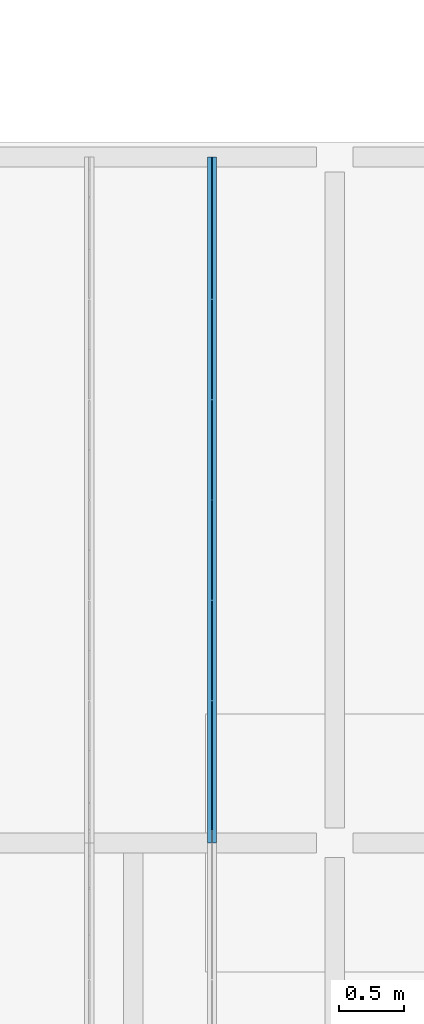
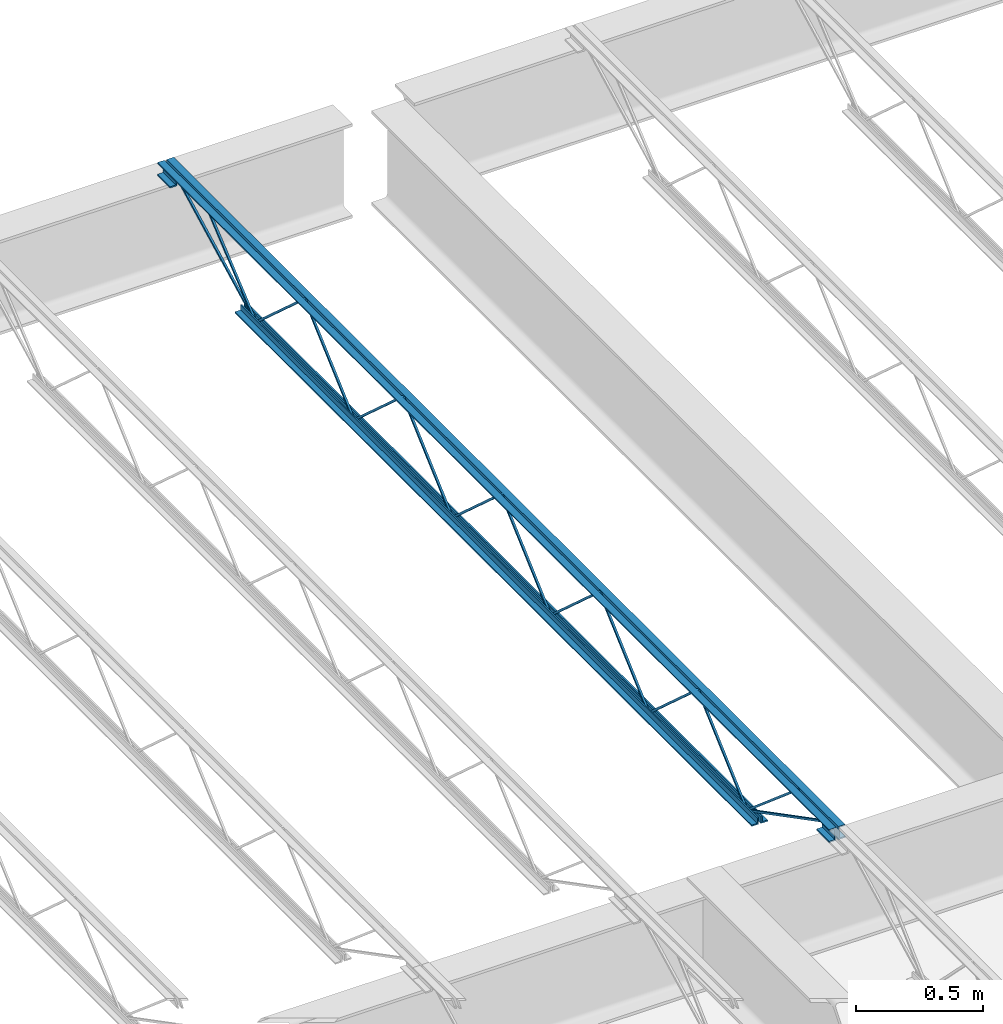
# One storey, part 71 of 75: 1 beam.
"""IFC2X3 building model written with IfcOpenShell, lengths in metres."""

from ifc_helpers import new_model, entity, si_unit, converted_unit, frame, origin, place, context, project, spatial, face_set, surface_model, element, save


model = new_model("IFC2X3")

# Units and contexts
model_context = context("Model", 3, precision=1e-09, world=origin())
plan_context = context("Plan", 3, precision=1e-09, world=origin())
ifc_project = project(units=[si_unit("LENGTHUNIT", "METRE"), si_unit("AREAUNIT", "SQUARE_METRE"), si_unit("VOLUMEUNIT", "CUBIC_METRE"), converted_unit("PLANEANGLEUNIT", "DEGREE", entity("IfcRatioMeasure", 0.01745329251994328), si_unit("PLANEANGLEUNIT", "RADIAN"), dimensions=[0, 0, 0, 0, 0, 0, 0]), si_unit("TIMEUNIT", "SECOND")], contexts=[model_context, plan_context])

# Site, building, storey
site_placement = place(None, origin())
site = spatial("IfcSite", under=ifc_project, at=site_placement, Name="Default", CompositionType="ELEMENT")
building_placement = place(site_placement, origin())
building = spatial("IfcBuilding", under=site, at=building_placement, CompositionType="ELEMENT")
storey_placement = place(building_placement, origin())
storey = spatial("IfcBuildingStorey", under=building, at=storey_placement, Name="First Floor", CompositionType="ELEMENT", Elevation=-3.531500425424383e-13)

# Beam
beam_placement = place(storey_placement, frame((-8.26674687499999, 44.78049999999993, 4.112000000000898), z_axis=(0.0, 0.0, 1.0), x_axis=(-1.0, 0.0, 0.0)))
element("IfcBeam", 1, at=beam_placement, inside=storey, Name="M_K-Series Bar Joist-Rod Web:14K1:14K1", ObjectType="M_K-Series Bar Joist-Rod Web:14K1", context=model_context, shape_type="SurfaceModel", body=[
    surface_model("IfcFaceBasedSurfaceModel", [(-0.03200000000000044, -2.266000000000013, 0.01110000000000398), (-0.04150000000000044, -2.266000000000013, 0.01110000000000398), (-0.04150000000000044, -2.266000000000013, 0.001600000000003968), (-0.03200000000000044, -2.266000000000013, 0.001600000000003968), (-0.04150000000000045, -2.264645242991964, 0.01110000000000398), (-0.03200000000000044, -2.264645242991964, 0.01110000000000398), (-0.04150000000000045, -2.26100475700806, 0.001600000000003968), (-0.04150000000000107, -1.878854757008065, 0.3449000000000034), (-0.04150000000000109, -1.876145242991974, 0.3449000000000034), (-0.04150000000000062, -1.493995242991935, 0.001600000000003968), (-0.04150000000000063, -1.489000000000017, 0.001600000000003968), (-0.04150000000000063, -1.489000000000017, 0.01110000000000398), (-0.04150000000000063, -1.490354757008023, 0.01110000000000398), (-0.0415, -1.872504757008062, 0.3544000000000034), (-0.04149999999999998, -1.882495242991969, 0.3544000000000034), (-0.03200000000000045, -2.26100475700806, 0.001600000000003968), (-0.03199999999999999, -1.878854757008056, 0.3449000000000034), (-0.03199999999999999, -1.876145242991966, 0.3449000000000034), (-0.03200000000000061, -1.493995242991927, 0.001600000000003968), (-0.03200000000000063, -1.489000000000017, 0.001600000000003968), (-0.03200000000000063, -1.489000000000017, 0.01110000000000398), (-0.03200000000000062, -1.490354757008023, 0.01110000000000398), (-0.03200000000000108, -1.872504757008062, 0.3544000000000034), (-0.03200000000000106, -1.882495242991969, 0.3544000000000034), (-0.03200000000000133, -3.04300000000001, 0.01110000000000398), (-0.04150000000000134, -3.04300000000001, 0.01110000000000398), (-0.04150000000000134, -3.04300000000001, 0.001600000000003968), (-0.03200000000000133, -3.04300000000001, 0.001600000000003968), (-0.04150000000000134, -3.041645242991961, 0.01110000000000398), (-0.03200000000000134, -3.041645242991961, 0.01110000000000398), (-0.04150000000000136, -3.038004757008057, 0.001600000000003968), (-0.04150000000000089, -2.655854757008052, 0.3449000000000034), (-0.0415000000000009, -2.653145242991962, 0.3449000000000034), (-0.04150000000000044, -2.270995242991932, 0.001600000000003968), (-0.04150000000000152, -2.266000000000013, 0.01110000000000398), (-0.04150000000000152, -2.26735475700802, 0.01110000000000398), (-0.0415000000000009, -2.649504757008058, 0.3544000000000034), (-0.04150000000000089, -2.659495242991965, 0.3544000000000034), (-0.03200000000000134, -3.038004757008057, 0.001600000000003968), (-0.03200000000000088, -2.655854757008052, 0.3449000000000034), (-0.03200000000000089, -2.653145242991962, 0.3449000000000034), (-0.03200000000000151, -2.270995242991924, 0.001600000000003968), (-0.03200000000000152, -2.266000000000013, 0.001600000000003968), (-0.03200000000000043, -2.26735475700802, 0.01110000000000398), (-0.0320000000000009, -2.649504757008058, 0.3544000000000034), (-0.03200000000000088, -2.659495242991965, 0.3544000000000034), (-0.03200000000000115, -3.820000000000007, 0.01110000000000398), (-0.04150000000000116, -3.820000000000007, 0.01110000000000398), (-0.04150000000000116, -3.820000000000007, 0.001600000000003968), (-0.03200000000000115, -3.820000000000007, 0.001600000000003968), (-0.04150000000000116, -3.818645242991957, 0.01110000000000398), (-0.03200000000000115, -3.818645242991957, 0.01110000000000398), (-0.04150000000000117, -3.815004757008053, 0.001600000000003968), (-0.0415000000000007, -3.432854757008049, 0.3449000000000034), (-0.04150000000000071, -3.430145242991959, 0.3449000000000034), (-0.04150000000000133, -3.04799524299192, 0.001600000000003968), (-0.04150000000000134, -3.043000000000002, 0.001600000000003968), (-0.04150000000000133, -3.044354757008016, 0.01110000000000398), (-0.04150000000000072, -3.426504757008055, 0.3544000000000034), (-0.0415000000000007, -3.436495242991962, 0.3544000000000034), (-0.03200000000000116, -3.815004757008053, 0.001600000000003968), (-0.0320000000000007, -3.432854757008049, 0.3449000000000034), (-0.0320000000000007, -3.430145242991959, 0.3449000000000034), (-0.03200000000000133, -3.04799524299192, 0.001600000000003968), (-0.03200000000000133, -3.043000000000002, 0.01110000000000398), (-0.03200000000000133, -3.044354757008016, 0.01110000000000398), (-0.03200000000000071, -3.426504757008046, 0.3544000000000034), (-0.0320000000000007, -3.436495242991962, 0.3544000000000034), (-0.03200000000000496, -1.489000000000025, 0.01109999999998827), (-0.04150000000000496, -1.489000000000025, 0.01109999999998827), (-0.04150000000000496, -1.489000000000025, 0.001599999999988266), (-0.03200000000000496, -1.489000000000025, 0.001599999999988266), (-0.04150000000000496, -1.487645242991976, 0.01109999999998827), (-0.03200000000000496, -1.487645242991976, 0.01109999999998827), (-0.04150000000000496, -1.484004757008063, 0.001599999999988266), (-0.04150000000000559, -1.101854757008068, 0.3448999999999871), (-0.04150000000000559, -1.099145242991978, 0.3448999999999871), (-0.04150000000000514, -0.7169952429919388, 0.001599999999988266), (-0.04150000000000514, -0.7120000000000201, 0.001599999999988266), (-0.04150000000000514, -0.7120000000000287, 0.01109999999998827), (-0.04150000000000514, -0.7133547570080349, 0.01109999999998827), (-0.04150000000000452, -1.095504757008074, 0.3543999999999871), (-0.0415000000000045, -1.10549524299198, 0.3543999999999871), (-0.03200000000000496, -1.484004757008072, 0.001599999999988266), (-0.0320000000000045, -1.101854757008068, 0.3448999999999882), (-0.0320000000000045, -1.099145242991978, 0.3448999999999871), (-0.03200000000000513, -0.7169952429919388, 0.001599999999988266), (-0.03200000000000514, -0.7120000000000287, 0.001599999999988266), (-0.03200000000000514, -0.7120000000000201, 0.01109999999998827), (-0.03200000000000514, -0.7133547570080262, 0.01109999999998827), (-0.03200000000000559, -1.095504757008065, 0.3543999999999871), (-0.03200000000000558, -1.105495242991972, 0.3543999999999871), (-0.03200000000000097, -4.597000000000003, 0.01110000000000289), (-0.04150000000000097, -4.597000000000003, 0.01110000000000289), (-0.04150000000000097, -4.597000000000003, 0.001600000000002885), (-0.03200000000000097, -4.597000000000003, 0.001600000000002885), (-0.04150000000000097, -4.595645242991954, 0.01110000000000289), (-0.03200000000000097, -4.595645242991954, 0.01110000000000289), (-0.04150000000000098, -4.592004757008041, 0.001600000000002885), (-0.04150000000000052, -4.209854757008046, 0.3449000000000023), (-0.04150000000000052, -4.207145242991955, 0.3449000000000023), (-0.04150000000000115, -3.824995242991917, 0.001600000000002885), (-0.04150000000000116, -3.819999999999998, 0.001600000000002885), (-0.04150000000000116, -3.820000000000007, 0.01110000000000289), (-0.04150000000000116, -3.821354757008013, 0.01110000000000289), (-0.04150000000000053, -4.203504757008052, 0.3544000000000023), (-0.04150000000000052, -4.213495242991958, 0.3544000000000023), (-0.03200000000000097, -4.592004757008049, 0.001600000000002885), (-0.03200000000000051, -4.209854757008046, 0.3449000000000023), (-0.03200000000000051, -4.207145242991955, 0.3449000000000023), (-0.03200000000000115, -3.824995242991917, 0.001600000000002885), (-0.03200000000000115, -3.820000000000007, 0.001600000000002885), (-0.03200000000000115, -3.819999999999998, 0.01110000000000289), (-0.03200000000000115, -3.821354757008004, 0.01110000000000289), (-0.03200000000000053, -4.203504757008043, 0.3544000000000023), (-0.03200000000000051, -4.213495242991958, 0.3544000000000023), (-0.04150000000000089, 0.0, 0.3559999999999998), (-0.07350000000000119, 0.0, 0.3559999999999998), (-0.07350000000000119, 0.0, 0.349499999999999), (-0.04800000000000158, 0.0, 0.349499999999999), (-0.04800000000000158, 0.0, 0.3239999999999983), (-0.04150000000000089, 0.0, 0.3239999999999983), (-0.03200000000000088, 0.0, 0.3559999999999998), (-0.03200000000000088, 0.0, 0.3239999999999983), (-0.02550000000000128, 0.0, 0.3239999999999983), (-0.02550000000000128, 0.0, 0.349499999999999), (0.0, 0.0, 0.349499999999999), (0.0, 0.0, 0.3559999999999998), (-0.0415000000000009, -5.309000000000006, 0.3559999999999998), (-0.0735000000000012, -5.309000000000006, 0.3559999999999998), (-0.0735000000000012, -5.309000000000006, 0.349499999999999), (-0.04800000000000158, -5.309000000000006, 0.349499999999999), (-0.04800000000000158, -5.309000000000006, 0.3239999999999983), (-0.0415000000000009, -5.309000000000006, 0.3239999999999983), (-0.03200000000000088, -5.309000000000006, 0.3559999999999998), (-0.03200000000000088, -5.309000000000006, 0.3239999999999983), (-0.02550000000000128, -5.309000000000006, 0.3239999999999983), (-0.02550000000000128, -5.309000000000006, 0.349499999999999), (0.0, -5.309000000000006, 0.349499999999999), (0.0, -5.309000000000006, 0.3559999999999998), (-0.03200000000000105, -5.20900000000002, 0.2924999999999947), (0.0, -5.20900000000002, 0.2924999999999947), (0.0, -5.20900000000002, 0.2989999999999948), (-0.02550000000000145, -5.20900000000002, 0.2989999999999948), (-0.02550000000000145, -5.20900000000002, 0.3239999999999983), (-0.03200000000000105, -5.20900000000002, 0.3239999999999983), (-0.07350000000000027, -5.20900000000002, 0.2924999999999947), (-0.04150000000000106, -5.20900000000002, 0.2924999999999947), (-0.04150000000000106, -5.20900000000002, 0.3239999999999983), (-0.04800000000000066, -5.20900000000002, 0.3239999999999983), (-0.04800000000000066, -5.20900000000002, 0.2989999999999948), (-0.07350000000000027, -5.20900000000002, 0.2989999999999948), (-0.03200000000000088, -5.309000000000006, 0.2924999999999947), (0.0, -5.309000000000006, 0.2924999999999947), (0.0, -5.309000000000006, 0.2989999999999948), (-0.02550000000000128, -5.309000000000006, 0.2989999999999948), (-0.07350000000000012, -5.309000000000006, 0.2924999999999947), (-0.0415000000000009, -5.309000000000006, 0.2924999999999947), (-0.0480000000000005, -5.309000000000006, 0.3239999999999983), (-0.0480000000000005, -5.309000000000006, 0.2989999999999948), (-0.07350000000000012, -5.309000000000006, 0.2989999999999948), (-0.04150000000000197, 0.0, 0.2924999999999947), (-0.04150000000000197, 0.0, 0.3239999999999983), (-0.04800000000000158, 0.0, 0.2989999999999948), (-0.07350000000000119, 0.0, 0.2989999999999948), (-0.07350000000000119, 0.0, 0.2924999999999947), (-0.03200000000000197, 0.0, 0.2924999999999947), (0.0, 0.0, 0.2924999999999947), (0.0, 0.0, 0.2989999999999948), (-0.02550000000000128, 0.0, 0.2989999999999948), (-0.03200000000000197, 0.0, 0.3239999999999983), (-0.04150000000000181, -0.1000000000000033, 0.2924999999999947), (-0.04150000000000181, -0.1000000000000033, 0.3239999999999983), (-0.04800000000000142, -0.1000000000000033, 0.3239999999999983), (-0.04800000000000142, -0.1000000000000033, 0.2989999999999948), (-0.07350000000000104, -0.1000000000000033, 0.2989999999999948), (-0.07350000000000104, -0.1000000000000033, 0.2924999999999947), (-0.03200000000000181, -0.1000000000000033, 0.2924999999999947), (0.0, -0.1000000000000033, 0.2924999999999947), (0.0, -0.1000000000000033, 0.2989999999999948), (-0.02550000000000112, -0.1000000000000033, 0.2989999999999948), (-0.02550000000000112, -0.1000000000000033, 0.3239999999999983), (-0.03200000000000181, -0.1000000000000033, 0.3239999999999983), (-0.04150000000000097, -0.6119999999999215, 0.0), (-0.04150000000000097, -0.6119999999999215, 0.03199999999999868), (-0.04800000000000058, -0.6119999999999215, 0.03199999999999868), (-0.04800000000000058, -0.6119999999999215, 0.006499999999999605), (-0.07350000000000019, -0.6119999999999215, 0.006499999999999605), (-0.07350000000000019, -0.6119999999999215, 0.0), (-0.03200000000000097, -0.6119999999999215, 0.0), (0.0, -0.6119999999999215, 0.0), (0.0, -0.6119999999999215, 0.006499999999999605), (-0.02550000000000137, -0.6119999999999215, 0.006499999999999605), (-0.02550000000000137, -0.6119999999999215, 0.03199999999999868), (-0.03200000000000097, -0.6119999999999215, 0.03199999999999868), (-0.04150000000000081, -4.696999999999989, 0.0), (-0.04150000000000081, -4.696999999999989, 0.03199999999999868), (-0.04800000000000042, -4.696999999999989, 0.03199999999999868), (-0.04800000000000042, -4.696999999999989, 0.006499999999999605), (-0.07350000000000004, -4.696999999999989, 0.006499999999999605), (-0.07350000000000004, -4.696999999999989, 0.0), (-0.0320000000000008, -4.696999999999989, 0.0), (0.0, -4.696999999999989, 0.0), (0.0, -4.696999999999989, 0.006499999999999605), (-0.0255000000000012, -4.696999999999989, 0.006499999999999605), (-0.0255000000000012, -4.696999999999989, 0.03199999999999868), (-0.0320000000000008, -4.696999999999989, 0.03199999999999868), (-0.03200000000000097, -4.594811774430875, 0.01056594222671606), (-0.04150000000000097, -4.594811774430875, 0.01056594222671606), (-0.04150000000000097, -4.599188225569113, 0.002134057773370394), (-0.03200000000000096, -4.599188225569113, 0.002134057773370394), (-0.03200000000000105, -5.207840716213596, 0.3287499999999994), (-0.03200000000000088, -5.308999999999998, 0.3287499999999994), (-0.03200000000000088, -5.308999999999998, 0.3192499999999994), (-0.03200000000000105, -5.210159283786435, 0.3192499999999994), (-0.04150000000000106, -5.210159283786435, 0.3192499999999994), (-0.04150000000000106, -5.207840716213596, 0.3287499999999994), (-0.0415000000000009, -5.308999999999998, 0.3287499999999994), (-0.0415000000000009, -5.309000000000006, 0.3192499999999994), (-0.03200000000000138, -5.005457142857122, 0.341700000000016), (-0.04150000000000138, -5.005457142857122, 0.341700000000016), (-0.04150000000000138, -5.005457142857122, 0.332200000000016), (-0.03200000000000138, -5.005457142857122, 0.332200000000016), (-0.04150000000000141, -4.991034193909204, 0.341700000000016), (-0.0320000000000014, -4.991034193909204, 0.341700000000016), (-0.0415000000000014, -4.994480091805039, 0.332200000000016), (-0.04150000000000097, -4.600045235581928, 0.002704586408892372), (-0.04150000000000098, -4.593954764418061, 0.009995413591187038), (-0.0320000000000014, -4.994480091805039, 0.332200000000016), (-0.03200000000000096, -4.600045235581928, 0.002704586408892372), (-0.03200000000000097, -4.593954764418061, 0.009995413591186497), (-0.03200000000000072, -0.09781177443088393, 0.3197840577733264), (-0.03200000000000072, -0.1021882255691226, 0.3282159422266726), (-0.04150000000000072, -0.1021882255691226, 0.3282159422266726), (-0.04150000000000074, -0.09781177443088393, 0.3197840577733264), (-0.03200000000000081, -0.7098117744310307, 0.002134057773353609), (-0.0320000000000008, -0.7141882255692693, 0.01056594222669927), (-0.04150000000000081, -0.7141882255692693, 0.01056594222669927), (-0.04150000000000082, -0.7098117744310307, 0.002134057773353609), (-0.03200000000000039, -0.3059055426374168, 0.3460340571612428), (-0.03200000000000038, -0.3120658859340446, 0.3532659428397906), (-0.04150000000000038, -0.3120658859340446, 0.3532659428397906), (-0.04150000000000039, -0.3059055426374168, 0.3460340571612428), (-0.03200000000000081, -0.7089198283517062, 0.002734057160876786), (-0.0320000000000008, -0.7150801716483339, 0.009965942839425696), (-0.04150000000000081, -0.7150801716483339, 0.009965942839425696), (-0.04150000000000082, -0.7089198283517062, 0.002734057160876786)], [face_set([[[0, 1, 2, 3]], [[1, 4, 5, 0]], [[2, 6, 7, 8, 9, 10, 11, 12, 13, 14, 4, 1]], [[3, 2, 6, 15]], [[0, 3, 15, 16, 17, 18, 19, 20, 21, 22, 23, 5]], [[4, 5, 23, 14]], [[15, 16, 7, 6]], [[14, 13, 22, 23]], [[16, 7, 8, 17]], [[13, 12, 21, 22]], [[17, 8, 9, 18]], [[20, 11, 10, 19]], [[12, 11, 20, 21]], [[18, 9, 10, 19]]]), face_set([[[24, 25, 26, 27]], [[25, 28, 29, 24]], [[26, 30, 31, 32, 33, 2, 34, 35, 36, 37, 28, 25]], [[27, 26, 30, 38]], [[24, 27, 38, 39, 40, 41, 42, 0, 43, 44, 45, 29]], [[28, 29, 45, 37]], [[38, 39, 31, 30]], [[37, 36, 44, 45]], [[39, 31, 32, 40]], [[36, 35, 43, 44]], [[40, 32, 33, 41]], [[0, 34, 2, 42]], [[35, 34, 0, 43]], [[41, 33, 2, 42]]]), face_set([[[46, 47, 48, 49]], [[47, 50, 51, 46]], [[48, 52, 53, 54, 55, 56, 25, 57, 58, 59, 50, 47]], [[49, 48, 52, 60]], [[46, 49, 60, 61, 62, 63, 27, 64, 65, 66, 67, 51]], [[50, 51, 67, 59]], [[60, 61, 53, 52]], [[59, 58, 66, 67]], [[61, 53, 54, 62]], [[58, 57, 65, 66]], [[62, 54, 55, 63]], [[64, 25, 56, 27]], [[57, 25, 64, 65]], [[63, 55, 56, 27]]]), face_set([[[68, 69, 70, 71]], [[69, 72, 73, 68]], [[70, 74, 75, 76, 77, 78, 79, 80, 81, 82, 72, 69]], [[71, 70, 74, 83]], [[68, 71, 83, 84, 85, 86, 87, 88, 89, 90, 91, 73]], [[72, 73, 91, 82]], [[83, 84, 75, 74]], [[82, 81, 90, 91]], [[84, 75, 76, 85]], [[81, 80, 89, 90]], [[85, 76, 77, 86]], [[88, 79, 78, 87]], [[80, 79, 88, 89]], [[86, 77, 78, 87]]]), face_set([[[92, 93, 94, 95]], [[93, 96, 97, 92]], [[94, 98, 99, 100, 101, 102, 103, 104, 105, 106, 96, 93]], [[95, 94, 98, 107]], [[92, 95, 107, 108, 109, 110, 111, 112, 113, 114, 115, 97]], [[96, 97, 115, 106]], [[107, 108, 99, 98]], [[106, 105, 114, 115]], [[108, 99, 100, 109]], [[105, 104, 113, 114]], [[109, 100, 101, 110]], [[112, 103, 102, 111]], [[104, 103, 112, 113]], [[110, 101, 102, 111]]]), face_set([[[116, 117, 118, 119, 120, 121]], [[122, 123, 124, 125, 126, 127]], [[128, 129, 130, 131, 132, 133]], [[134, 135, 136, 137, 138, 139]], [[121, 116, 128, 133]], [[120, 121, 133, 132]], [[119, 131, 132, 120]], [[118, 119, 131, 130]], [[117, 129, 130, 118]], [[116, 128, 129, 117]], [[127, 139, 134, 122]], [[126, 127, 139, 138]], [[125, 126, 138, 137]], [[124, 125, 137, 136]], [[123, 124, 136, 135]], [[122, 134, 135, 123]]]), face_set([[[140, 141, 142, 143, 144, 145]], [[146, 147, 148, 149, 150, 151]], [[152, 153, 154, 155, 136, 135]], [[156, 157, 133, 158, 159, 160]], [[145, 135, 152, 140]], [[144, 136, 135, 145]], [[143, 144, 136, 155]], [[142, 154, 155, 143]], [[141, 142, 154, 153]], [[140, 141, 153, 152]], [[151, 160, 156, 146]], [[150, 159, 160, 151]], [[149, 158, 159, 150]], [[148, 133, 158, 149]], [[147, 148, 133, 157]], [[146, 147, 157, 156]]]), face_set([[[161, 162, 120, 163, 164, 165]], [[166, 167, 168, 169, 124, 170]], [[171, 172, 173, 174, 175, 176]], [[177, 178, 179, 180, 181, 182]], [[165, 161, 171, 176]], [[164, 175, 176, 165]], [[163, 174, 175, 164]], [[120, 173, 174, 163]], [[162, 172, 173, 120]], [[161, 162, 172, 171]], [[170, 182, 177, 166]], [[124, 181, 182, 170]], [[169, 124, 181, 180]], [[168, 179, 180, 169]], [[167, 168, 179, 178]], [[166, 167, 178, 177]]]), face_set([[[183, 184, 185, 186, 187, 188]], [[189, 190, 191, 192, 193, 194]], [[195, 196, 197, 198, 199, 200]], [[201, 202, 203, 204, 205, 206]], [[188, 183, 195, 200]], [[187, 199, 200, 188]], [[186, 198, 199, 187]], [[185, 197, 198, 186]], [[184, 196, 197, 185]], [[183, 184, 196, 195]], [[194, 206, 201, 189]], [[193, 205, 206, 194]], [[192, 193, 205, 204]], [[191, 203, 204, 192]], [[190, 191, 203, 202]], [[189, 190, 202, 201]]]), face_set([[[207, 208, 209, 210]], [[210, 207, 211, 212, 213, 214]], [[209, 210, 214, 215]], [[208, 216, 217, 218, 215, 209]], [[207, 211, 216, 208]], [[212, 217, 218, 213]], [[215, 214, 213, 218]], [[211, 212, 217, 216]]]), face_set([[[219, 220, 221, 222]], [[220, 223, 224, 219]], [[221, 225, 226, 227, 223, 220]], [[222, 221, 225, 228]], [[219, 222, 228, 229, 230, 224]], [[230, 227, 226, 229]], [[223, 227, 230, 224]], [[228, 225, 226, 229]]]), face_set([[[231, 232, 233, 234]], [[235, 236, 237, 238]], [[234, 238, 235, 231]], [[233, 237, 238, 234]], [[232, 233, 237, 236]], [[231, 232, 236, 235]]]), face_set([[[239, 240, 241, 242]], [[243, 244, 245, 246]], [[242, 246, 243, 239]], [[241, 245, 246, 242]], [[240, 241, 245, 244]], [[239, 240, 244, 243]]])]),
])

save(model, "model.ifc")
